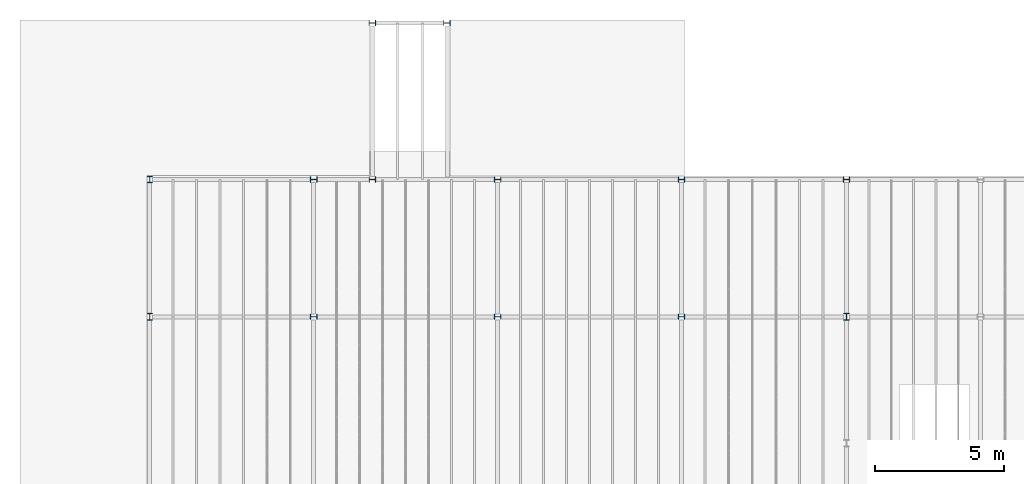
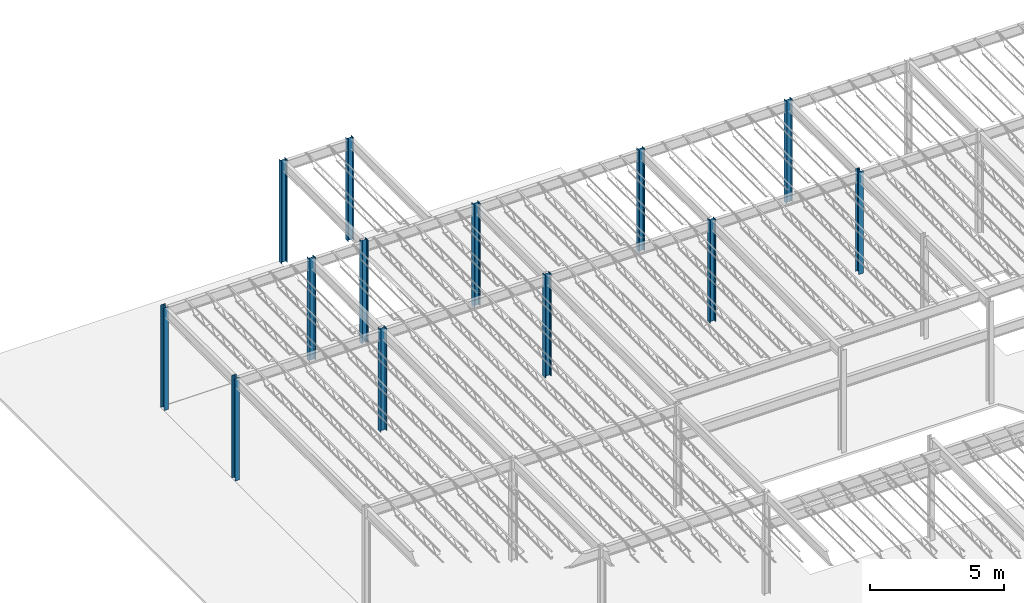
# One storey, part 5 of 119: 13 columns.
"""IFC2X3 building model written with IfcOpenShell, lengths in metres."""

import ifcopenshell
import ifcopenshell.guid

model = None  # the IFC model being written
_history = None  # IfcOwnerHistory: only IFC2X3 demands one
_inside = {}  # id of a spatial element -> (the spatial element, [elements in it])
_under = {}  # id of a project, library or spatial element -> (it, [spatial elements below it])
_declared = {}  # id of a project -> (the project, [libraries it declares])
_typed = {}  # id of a type object -> (the type object, [elements of that type])
_made_of = {}  # id of a material, layer set ... -> (it, [elements and type objects made of it])


def new_model(schema):
    """Start an empty IFC model of exactly this schema.

    Asked for "IFC4X3", IfcOpenShell would pick the latest addendum, in which some entities
    have other attributes; the version numbers below select the first issue.
    IFC2X3 requires an IfcOwnerHistory on every rooted entity: one is made here for all.
    """
    global model, _history
    if schema == "IFC4X3":
        model = ifcopenshell.file(schema_version=(4, 3, 0, 0))
    else:
        model = ifcopenshell.file(schema=schema)
    _inside.clear()
    _under.clear()
    _declared.clear()
    _typed.clear()
    _made_of.clear()
    _history = None
    if model.schema == "IFC2X3":
        org = make("IfcOrganization", Name="unknown")
        user = make(
            "IfcPersonAndOrganization",
            ThePerson=make("IfcPerson", FamilyName="unknown"),
            TheOrganization=org,
        )
        app = make(
            "IfcApplication",
            ApplicationDeveloper=org,
            Version="unknown",
            ApplicationFullName="unknown",
            ApplicationIdentifier="unknown",
        )
        _history = make(
            "IfcOwnerHistory",
            OwningUser=user,
            OwningApplication=app,
            ChangeAction="ADDED",
            CreationDate=0,
        )
    return model


def make(cls, **values):
    """One entity of the class cls with the attributes given. An attribute that is None is left unset."""
    return model.create_entity(
        cls, **{name: value for name, value in values.items() if value is not None}
    )


def entity(cls, *values):
    """Any entity or typed value of the class cls, its attributes in the order of the schema. None: left unset."""
    e = model.create_entity(cls)
    for i, value in enumerate(values):
        if value is not None:
            e[i] = value
    return e


def rooted(cls, **values):
    """An entity with a GlobalId (a new one), such as an element, a storey or a relation."""
    return make(cls, GlobalId=ifcopenshell.guid.new(), OwnerHistory=_history, **values)


def si_unit(unit_type, name, prefix=None):
    """IfcSIUnit, for example si_unit("LENGTHUNIT", "METRE", prefix="MILLI")."""
    return make("IfcSIUnit", UnitType=unit_type, Prefix=prefix, Name=name)


def converted_unit(unit_type, name, factor, base, dimensions=None, offset=None):
    """IfcConversionBasedUnit, such as the inch: factor (a typed value) times the base unit."""
    return make(
        "IfcConversionBasedUnit"
        if offset is None
        else "IfcConversionBasedUnitWithOffset",
        ConversionOffset=offset,
        Dimensions=None
        if dimensions is None
        else entity("IfcDimensionalExponents", *dimensions),
        UnitType=unit_type,
        Name=name,
        ConversionFactor=make(
            "IfcMeasureWithUnit", ValueComponent=factor, UnitComponent=base
        ),
    )


def assignment(units):
    """IfcUnitAssignment: the units of a project."""
    return None if units is None else make("IfcUnitAssignment", Units=units)


def point(xyz):
    """IfcCartesianPoint."""
    return None if xyz is None else make("IfcCartesianPoint", Coordinates=xyz)


def direction(xyz):
    """IfcDirection."""
    return None if xyz is None else make("IfcDirection", DirectionRatios=xyz)


def frame(location, z_axis=None, x_axis=None):
    """IfcAxis2Placement3D, a coordinate frame: its origin and axes. An axis left out is left unset."""
    return make(
        "IfcAxis2Placement3D",
        Location=point(location),
        Axis=direction(z_axis),
        RefDirection=direction(x_axis),
    )


def frame_2d(location, x_axis=None):
    """IfcAxis2Placement2D, a coordinate frame in the plane: its origin and x axis."""
    return make(
        "IfcAxis2Placement2D", Location=point(location), RefDirection=direction(x_axis)
    )


def origin():
    """The frame at (0, 0, 0) with its axes left unset."""
    return frame((0.0, 0.0, 0.0))


def place(relative_to, where):
    """IfcLocalPlacement: puts the frame where relative to a parent placement (None: the world)."""
    return make(
        "IfcLocalPlacement", PlacementRelTo=relative_to, RelativePlacement=where
    )


def context(
    kind, dimensions, precision=None, world=None, true_north=None, identifier=None
):
    """IfcGeometricRepresentationContext, for example the 3D "Model" context."""
    return make(
        "IfcGeometricRepresentationContext",
        ContextIdentifier=identifier,
        ContextType=kind,
        CoordinateSpaceDimension=dimensions,
        Precision=precision,
        WorldCoordinateSystem=world,
        TrueNorth=true_north,
    )


def project(units=None, contexts=None):
    """IfcProject with its units and contexts."""
    return rooted(
        "IfcProject",
        Name="project",
        RepresentationContexts=contexts,
        UnitsInContext=assignment(units),
    )


def spatial(cls, under=None, at=None, **own):
    """A site, building, storey or space (cls), placed at a placement, below another one or the project."""
    s = rooted(cls, ObjectPlacement=at, **own)
    if under is not None:
        _under.setdefault(under.id(), (under, []))[1].append(s)
    return s


def polyline(points):
    """IfcPolyline through the points."""
    return make("IfcPolyline", Points=[point(p) for p in points])


def circle_curve(where, radius):
    """IfcCircle in the frame where."""
    return make("IfcCircle", Position=where, Radius=radius)


def parameter(value):
    """IfcParameterValue: where a trimmed curve begins or ends, as a parameter of its basis curve."""
    return model.create_entity("IfcParameterValue", value)


def trimmed(basis, trim1, trim2, sense, master):
    """IfcTrimmedCurve: the piece of a basis curve between two trims."""
    return make(
        "IfcTrimmedCurve",
        BasisCurve=basis,
        Trim1=trim1,
        Trim2=trim2,
        SenseAgreement=sense,
        MasterRepresentation=master,
    )


def segment(curve, same_sense, transition):
    """IfcCompositeCurveSegment."""
    return make(
        "IfcCompositeCurveSegment",
        Transition=transition,
        SameSense=same_sense,
        ParentCurve=curve,
    )


def composite_curve(segments, self_intersect=None):
    """IfcCompositeCurve: segments joined end to end."""
    return make("IfcCompositeCurve", Segments=segments, SelfIntersect=self_intersect)


def outline(outer, holes=None, kind="AREA"):
    """IfcArbitraryClosedProfileDef: a profile drawn as a closed curve; with holes, ...WithVoids."""
    if holes is None:
        return make("IfcArbitraryClosedProfileDef", ProfileType=kind, OuterCurve=outer)
    return make(
        "IfcArbitraryProfileDefWithVoids",
        ProfileType=kind,
        OuterCurve=outer,
        InnerCurves=holes,
    )


def extrude(swept, where, along, depth):
    """IfcExtrudedAreaSolid: the profile swept, set in the frame where, extruded along a direction by depth."""
    return make(
        "IfcExtrudedAreaSolid",
        SweptArea=swept,
        Position=where,
        ExtrudedDirection=direction(along),
        Depth=depth,
    )


def shape(context_of_items, identifier, shape_type, items):
    """IfcShapeRepresentation: the items that make up one representation, for example the "Body"."""
    return make(
        "IfcShapeRepresentation",
        ContextOfItems=context_of_items,
        RepresentationIdentifier=identifier,
        RepresentationType=shape_type,
        Items=items,
    )


def source(mapping_origin, context_of_items, identifier, shape_type, items):
    """IfcRepresentationMap: a shape defined once, which mapped items show again and again."""
    return make(
        "IfcRepresentationMap",
        MappingOrigin=mapping_origin,
        MappedRepresentation=shape(context_of_items, identifier, shape_type, items),
    )


def transform(
    local_origin,
    x_axis=None,
    y_axis=None,
    z_axis=None,
    scale=None,
    scale2=None,
    scale3=None,
    uniform=True,
):
    """IfcCartesianTransformationOperator3D, or its non-uniform kind. x_axis, y_axis, z_axis: its Axis1, 2, 3."""
    if uniform:
        return make(
            "IfcCartesianTransformationOperator3D",
            Axis1=direction(x_axis),
            Axis2=direction(y_axis),
            LocalOrigin=point(local_origin),
            Scale=scale,
            Axis3=direction(z_axis),
        )
    return make(
        "IfcCartesianTransformationOperator3DnonUniform",
        Axis1=direction(x_axis),
        Axis2=direction(y_axis),
        LocalOrigin=point(local_origin),
        Scale=scale,
        Axis3=direction(z_axis),
        Scale2=scale2,
        Scale3=scale3,
    )


def mapped(mapping_source, mapping_target):
    """IfcMappedItem: shows the shape of a source again, moved by a transform."""
    return make(
        "IfcMappedItem", MappingSource=mapping_source, MappingTarget=mapping_target
    )


def material(Name=None, Category=None):
    """IfcMaterial."""
    return make("IfcMaterial", Name=Name, Category=Category)


def made_of(thing, what):
    """Note that an element or type object is made of a material, layer set ...; save() writes the relation."""
    if what is not None:
        _made_of.setdefault(what.id(), (what, []))[1].append(thing)
    return thing


def type_object(cls, material=None, **own):
    """A type object (cls), such as IfcWallType, which elements share."""
    return made_of(rooted(cls, **own), material)


def type_shapes(of_type, sources):
    """Give a type object the sources (RepresentationMaps) that its elements show as mapped items."""
    of_type.RepresentationMaps = sources


def element(
    cls,
    number,
    at=None,
    inside=None,
    cuts=None,
    type_object=None,
    material=None,
    context=None,
    identifier="Body",
    shape_type=None,
    held_by="IfcProductDefinitionShape",
    body=None,
    shapes=None,
    **own,
):
    """One element of the class cls, such as IfcWall. Its Tag is "e" and its number.

    at: its placement. inside: the storey or other place that contains it. cuts: it is an
    opening in that element (IfcRelVoidsElement). A single representation is given by context,
    identifier, shape_type and body (its items); several are given by shapes. held_by: the class
    of the entity that holds the representations. save() writes the other relations.
    """
    e = rooted(cls, Tag="e%d" % number, ObjectPlacement=at, **own)
    if body is not None:
        shapes = [shape(context, identifier, shape_type, body)]
    if shapes is not None:
        e.Representation = make(held_by, Representations=shapes)
    if inside is not None:
        _inside.setdefault(inside.id(), (inside, []))[1].append(e)
    if cuts is not None:
        rooted(
            "IfcRelVoidsElement", RelatingBuildingElement=cuts, RelatedOpeningElement=e
        )
    if type_object is not None:
        _typed.setdefault(type_object.id(), (type_object, []))[1].append(e)
    return made_of(e, material)


def aggregate(whole, parts):
    """IfcRelAggregates: a whole, such as a stair, and the parts it consists of."""
    return rooted("IfcRelAggregates", RelatingObject=whole, RelatedObjects=parts)


def save(model, path):
    """Write the relations noted so far, then the file.

    IfcRelAggregates (storeys below a building ...), IfcRelContainedInSpatialStructure (elements
    in a storey), IfcRelDefinesByType, IfcRelAssociatesMaterial and IfcRelDeclares: one each for
    every whole, place, type object, material and project.
    """
    for whole, parts in _under.values():
        aggregate(whole, parts)
    for where, things in _inside.values():
        rooted(
            "IfcRelContainedInSpatialStructure",
            RelatedElements=things,
            RelatingStructure=where,
        )
    for kind, things in _typed.values():
        rooted("IfcRelDefinesByType", RelatedObjects=things, RelatingType=kind)
    for what, things in _made_of.values():
        rooted("IfcRelAssociatesMaterial", RelatedObjects=things, RelatingMaterial=what)
    for by, libraries in _declared.values():
        rooted("IfcRelDeclares", RelatingContext=by, RelatedDefinitions=libraries)
    model.write(path)


model = new_model("IFC2X3")

# Units and contexts
model_context = context("Model", 3, precision=1e-09, world=origin())
plan_context = context("Plan", 3, precision=1e-09, world=origin())
ifc_project = project(units=[si_unit("LENGTHUNIT", "METRE"), si_unit("AREAUNIT", "SQUARE_METRE"), si_unit("VOLUMEUNIT", "CUBIC_METRE"), converted_unit("PLANEANGLEUNIT", "DEGREE", entity("IfcRatioMeasure", 0.01745329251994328), si_unit("PLANEANGLEUNIT", "RADIAN"), dimensions=[0, 0, 0, 0, 0, 0, 0]), si_unit("TIMEUNIT", "SECOND")], contexts=[model_context, plan_context])

# Site, building, storey
site_placement = place(None, origin())
site = spatial("IfcSite", under=ifc_project, at=site_placement, Name="Default", CompositionType="ELEMENT")
building_placement = place(site_placement, origin())
building = spatial("IfcBuilding", under=site, at=building_placement, CompositionType="ELEMENT")
storey_placement = place(building_placement, frame((0.0, 0.0, 4.570000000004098)))
storey = spatial("IfcBuildingStorey", under=building, at=storey_placement, Name="Second Floor", CompositionType="ELEMENT", Elevation=4.570000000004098)

# Columns
ifc_material = material(Name="Metal - Steel - 345 MPa")
column_type = type_object("IfcColumnType", Name="W250X67", PredefinedType="COLUMN")
shared_shape = source(origin(), model_context, "Body", "SweptSolid", [
    extrude(outline(composite_curve([segment(polyline([(-0.102, -0.1285), (0.102, -0.1285)]), True, "CONTINUOUS"), segment(polyline([(0.102, -0.1285), (0.102, -0.1128)]), True, "CONTINUOUS"), segment(polyline([(0.102, -0.1128), (0.02174999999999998, -0.1128)]), True, "CONTINUOUS"), segment(trimmed(circle_curve(frame_2d((0.02174999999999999, -0.09549999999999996), x_axis=(-1.0, 0.0)), 0.0173), [parameter(4.071109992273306e-13)], [parameter(90.00000000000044)], True, "PARAMETER"), False, "CONTINUOUS"), segment(polyline([(0.004449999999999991, -0.09549999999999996), (0.004449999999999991, 0.09549999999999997)]), True, "CONTINUOUS"), segment(trimmed(circle_curve(frame_2d((0.02174999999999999, 0.09549999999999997), x_axis=(-1.0, 0.0)), 0.0173), [parameter(270.0000000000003)], [parameter(3.562221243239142e-13)], True, "PARAMETER"), False, "CONTINUOUS"), segment(polyline([(0.02174999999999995, 0.1128), (0.102, 0.1128)]), True, "CONTINUOUS"), segment(polyline([(0.102, 0.1128), (0.102, 0.1285)]), True, "CONTINUOUS"), segment(polyline([(0.102, 0.1285), (-0.102, 0.1285)]), True, "CONTINUOUS"), segment(polyline([(-0.102, 0.1285), (-0.102, 0.1128)]), True, "CONTINUOUS"), segment(polyline([(-0.102, 0.1128), (-0.02174999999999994, 0.1128)]), True, "CONTINUOUS"), segment(trimmed(circle_curve(frame_2d((-0.02175000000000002, 0.09549999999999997), x_axis=(-1.0, 0.0)), 0.0173), [parameter(179.9999999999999)], [parameter(269.9999999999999)], True, "PARAMETER"), False, "CONTINUOUS"), segment(polyline([(-0.004450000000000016, 0.09550000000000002), (-0.004450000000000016, -0.09549999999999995)]), True, "CONTINUOUS"), segment(trimmed(circle_curve(frame_2d((-0.02175000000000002, -0.09549999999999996), x_axis=(-1.0, 0.0)), 0.0173), [parameter(90.00000000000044)], [parameter(180.0000000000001)], True, "PARAMETER"), False, "CONTINUOUS"), segment(polyline([(-0.02175000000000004, -0.1128), (-0.102, -0.1128)]), True, "CONTINUOUS"), segment(polyline([(-0.102, -0.1128), (-0.102, -0.1285)]), True, "CONTINUOUS")], self_intersect=False)), frame((0.0, 0.0, 4.570000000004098), z_axis=(0.0, 0.0, 1.0), x_axis=(-1.0, 0.0, 0.0)), (0.0, 0.0, 1.0), 4.679999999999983),
])
type_shapes(column_type, [shared_shape])
for number, where, z_axis, x_axis in (
    (1, (-26.44000000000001, 44.78000000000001, -4.570000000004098), (0.0, 0.0, 1.0), (0.0, -1.0, 0.0)),
    (2, (-40.66000000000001, 44.78000000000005, -4.570000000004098), (0.0, 0.0, 1.0), (0.0, -1.0, 0.0)),
    (3, (-40.66, 50.09000000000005, -4.570000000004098), (0.0, 0.0, 1.0), (0.0, 1.0, 0.0)),
    (4, (-38.38999999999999, 56.14000000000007, -4.570000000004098), (0.0, 0.0, 1.0), (0.0, 1.0, 0.0)),
    (5, (-33.55000000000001, 44.78000000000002, -4.570000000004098), (0.0, 0.0, 1.0), (0.0, -1.0, 0.0)),
    (6, (-47.0, 44.78000000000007, -4.570000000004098), (0.0, 0.0, 1.0), (-1.0, 0.0, 0.0)),
):
    element("IfcColumn", number, at=place(storey_placement, frame(where, z_axis=z_axis, x_axis=x_axis)), inside=storey, type_object=column_type, material=ifc_material, Name="M_W-Wide Flange-Column:W250X67:W250X67", ObjectType="W250X67", context=model_context, shape_type="MappedRepresentation", body=[
        mapped(shared_shape, transform((0.0, 0.0, 0.0), scale=1.0)),
    ])
column_1_placement = place(storey_placement, frame((-20.05999999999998, 44.77999999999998, -4.570000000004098)))
element("IfcColumn", 7, at=column_1_placement, inside=storey, type_object=column_type, material=ifc_material, Name="M_W-Wide Flange-Column:W250X67:W250X67", ObjectType="W250X67", context=model_context, shape_type="MappedRepresentation", body=[
    mapped(shared_shape, transform((0.0, 0.0, 0.0), scale=1.0)),
])
for number, where, z_axis, x_axis in (
    (8, (-38.39, 50.09000000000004, -4.570000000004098), (0.0, 0.0, 1.0), (0.0, 1.0, 0.0)),
    (9, (-26.44, 50.09, -4.570000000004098), (0.0, 0.0, 1.0), (0.0, 1.0, 0.0)),
):
    element("IfcColumn", number, at=place(storey_placement, frame(where, z_axis=z_axis, x_axis=x_axis)), inside=storey, type_object=column_type, material=ifc_material, Name="M_W-Wide Flange-Column:W250X67:W250X67", ObjectType="W250X67", context=model_context, shape_type="MappedRepresentation", body=[
        mapped(shared_shape, transform((0.0, 0.0, 0.0), scale=1.0)),
    ])
column_2_placement = place(storey_placement, frame((-47.0, 50.09000000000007, -4.570000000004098)))
element("IfcColumn", 10, at=column_2_placement, inside=storey, type_object=column_type, material=ifc_material, Name="M_W-Wide Flange-Column:W250X67:W250X67", ObjectType="W250X67", context=model_context, shape_type="MappedRepresentation", body=[
    mapped(shared_shape, transform((0.0, 0.0, 0.0), scale=1.0)),
])
for number, where, z_axis, x_axis in (
    (11, (-33.55, 50.09000000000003, -4.570000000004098), (0.0, 0.0, 1.0), (0.0, 1.0, 0.0)),
    (12, (-20.05999999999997, 50.08999999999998, -4.570000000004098), (0.0, 0.0, 1.0), (0.0, 1.0, 0.0)),
    (13, (-35.50999999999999, 56.14000000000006, -4.570000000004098), (0.0, 0.0, 1.0), (0.0, 1.0, 0.0)),
):
    element("IfcColumn", number, at=place(storey_placement, frame(where, z_axis=z_axis, x_axis=x_axis)), inside=storey, type_object=column_type, material=ifc_material, Name="M_W-Wide Flange-Column:W250X67:W250X67", ObjectType="W250X67", context=model_context, shape_type="MappedRepresentation", body=[
        mapped(shared_shape, transform((0.0, 0.0, 0.0), scale=1.0)),
    ])

save(model, "model.ifc")
